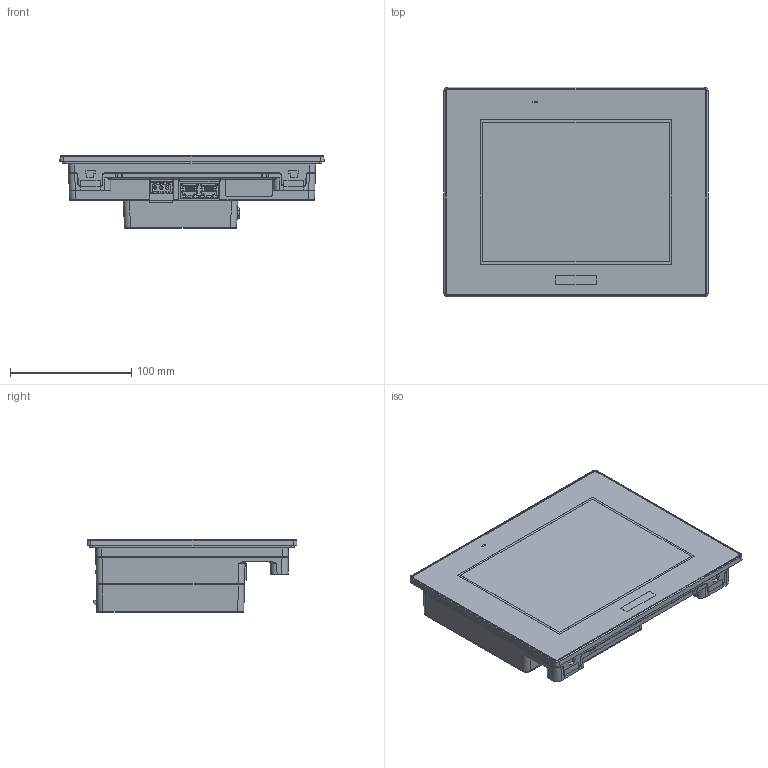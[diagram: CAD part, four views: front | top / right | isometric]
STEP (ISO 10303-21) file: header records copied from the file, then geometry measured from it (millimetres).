
FILE_DESCRIPTION (( 'STEP AP203' ), '1' );
FILE_NAME ('PFXGP6400TAD_3D-simpl.STEP', '2025-02-06T13:26:22', ( '' ), ( '' ), 'SwSTEP 2.0', 'SolidWorks 2017', '' );
FILE_SCHEMA (( 'CONFIG_CONTROL_DESIGN' ));
Length unit declared in the file: millimetre
Products named in the file (1): PFXGP6400TAD_3D-simpl
Bounding box: 218 x 173 x 60.05 mm (x, y, z)
Volume: 1351788.3 mm3; surface area: 127181.2 mm2
Topology: 2 solids, 20 shells, 2152 faces, 5825 edges, 3731 vertices
Faces by surface type: plane 1356, cylinder 523, bspline 195, cone 33, torus 30, sphere 15
Entity records: 81036 total; most frequent: CARTESIAN_POINT 30108, ORIENTED_EDGE 11578, DIRECTION 8807, EDGE_CURVE 5789, VECTOR 4155, LINE 4155, VERTEX_POINT 3731, AXIS2_PLACEMENT_3D 2326
